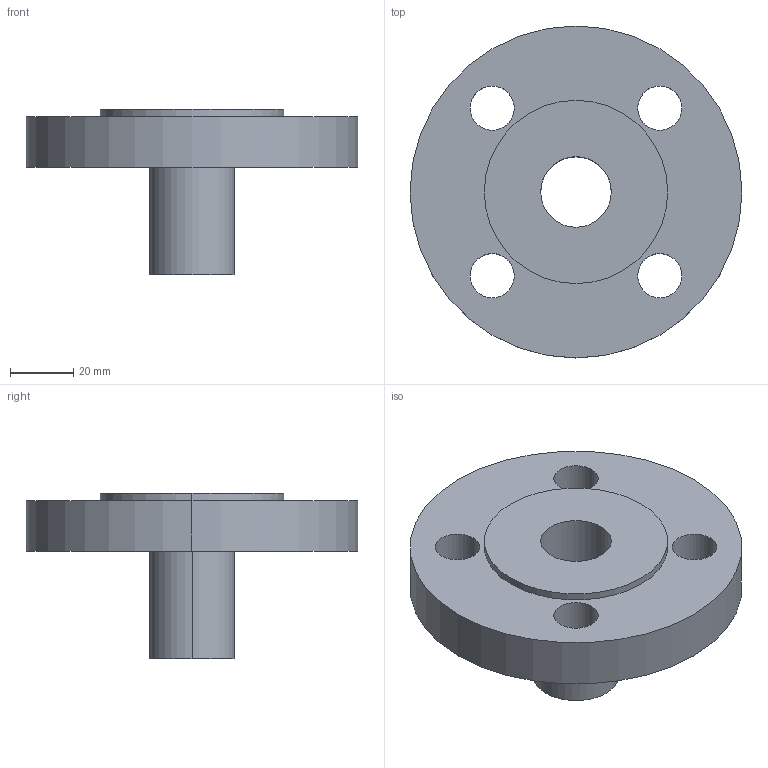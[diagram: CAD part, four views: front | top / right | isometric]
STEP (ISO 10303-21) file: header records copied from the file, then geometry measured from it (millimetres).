
FILE_DESCRIPTION (( 'STEP AP214' ), '1' );
FILE_NAME ('PN40 DN20 Type 02 in 33 - (Type A Face).STEP', '2018-12-29T18:28:16', ( '' ), ( '' ), 'SwSTEP 2.0', 'SolidWorks 2019', '' );
FILE_SCHEMA (( 'AUTOMOTIVE_DESIGN' ));
Length unit declared in the file: millimetre
Products named in the file (1): PN40 DN20 Type 02 in 33 - (Type A Face)
Bounding box: 105 x 105 x 52.3 mm (x, y, z)
Volume: 130578.9 mm3; surface area: 36654.9 mm2
Topology: 2 solids, 2 shells, 27 faces, 62 edges, 40 vertices
Faces by surface type: cylinder 18, plane 5, cone 4
Entity records: 851 total; most frequent: DIRECTION 158, CARTESIAN_POINT 130, ORIENTED_EDGE 124, AXIS2_PLACEMENT_3D 68, EDGE_CURVE 62, CIRCLE 40, EDGE_LOOP 40, VERTEX_POINT 40
